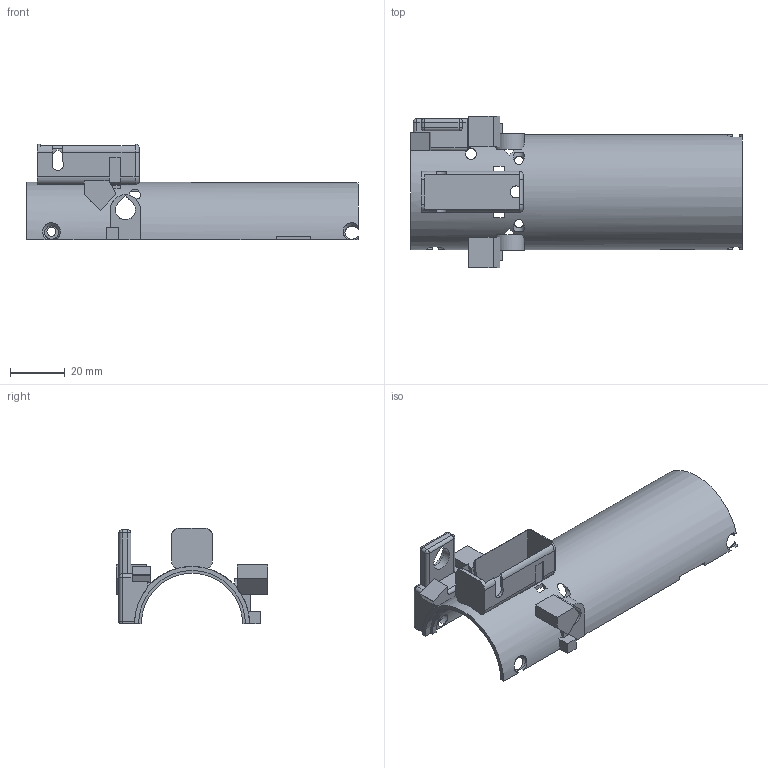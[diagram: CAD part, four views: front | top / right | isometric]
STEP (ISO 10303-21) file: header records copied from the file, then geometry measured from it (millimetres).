
FILE_DESCRIPTION(('Open CASCADE Model'),'2;1');
FILE_NAME('Open CASCADE Shape Model','2026-11-07T02:16:24',('Author'),( 'Open CASCADE'),'Open CASCADE STEP processor 8.0','build123d', 'Unknown');
FILE_SCHEMA(('AUTOMOTIVE_DESIGN { 1 0 10303 214 1 1 1 1 }'));
Length unit declared in the file: millimetre
Products named in the file (1): COMPOUND
Bounding box: 121.27 x 55.2 x 35 mm (x, y, z)
Volume: 19045.4 mm3; surface area: 21686.8 mm2
Topology: 1 solids, 1 shells, 172 faces, 514 edges, 329 vertices
Faces by surface type: plane 100, cylinder 55, sphere 9, torus 4, cone 4
Full cylindrical faces by diameter (mm): 3.3 x1, 4 x3, 4.4 x1
Entity records: 19705 total; most frequent: CARTESIAN_POINT 10316, DIRECTION 1551, ORIENTED_EDGE 1014, PCURVE 1014, DEFINITIONAL_REPRESENTATION 1014, LINE 801, VECTOR 801, EDGE_CURVE 507
